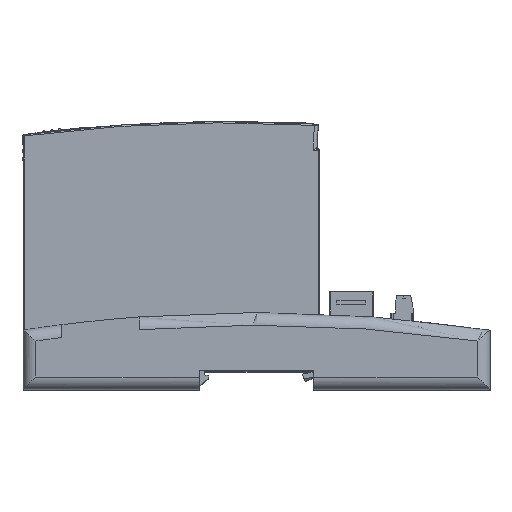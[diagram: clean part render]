
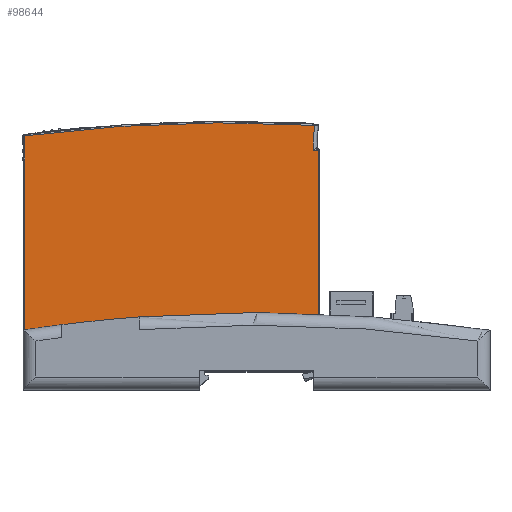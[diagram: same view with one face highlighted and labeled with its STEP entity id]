
A CAD part, top view. The second image highlights one B-rep face of the part: STEP entity #98644.
In plain terms, the highlighted planar face has unit normal (0, 0, 1).
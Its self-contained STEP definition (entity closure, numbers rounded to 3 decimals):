
#9811=DIRECTION('',(0.,1.,0.));
#9812=VECTOR('',#9811,2.4);
#9813=CARTESIAN_POINT('',(152.7,18.7,-0.2));
#9814=LINE('',#9813,#9812);
#17154=DIRECTION('',(-1.,0.,0.));
#17155=VECTOR('',#17154,1.2);
#17156=CARTESIAN_POINT('',(33.3,21.,-0.2));
#17157=LINE('',#17156,#17155);
#17171=DIRECTION('',(1.,0.,0.));
#17172=VECTOR('',#17171,0.3);
#17173=CARTESIAN_POINT('',(33.3,21.1,-0.2));
#17174=LINE('',#17173,#17172);
#17175=CARTESIAN_POINT('',(78.144,-496.603,
-0.2));
#17176=DIRECTION('',(0.,0.,-1.));
#17177=DIRECTION('',(-0.129,0.992,0.));
#17178=AXIS2_PLACEMENT_3D('',#17175,#17176,#17177);
#17180=CARTESIAN_POINT('',(203.417,92.8,-0.2));
#17181=DIRECTION('',(0.,0.,1.));
#17182=DIRECTION('',(-0.995,0.1,0.));
#17183=AXIS2_PLACEMENT_3D('',#17180,#17181,#17182);
#17185=DIRECTION('',(1.,0.,0.));
#17186=VECTOR('',#17185,38.783);
#17187=CARTESIAN_POINT('',(113.917,21.1,-0.2));
#17188=LINE('',#17187,#17186);
#17189=DIRECTION('',(-1.,0.,0.));
#17190=VECTOR('',#17189,120.597);
#17191=CARTESIAN_POINT('',(152.7,18.7,-0.2));
#17192=LINE('',#17191,#17190);
#17193=DIRECTION('',(1.,0.,0.));
#17194=VECTOR('',#17193,17.321);
#17195=CARTESIAN_POINT('',(53.94,21.1,-0.2));
#17196=LINE('',#17195,#17194);
#17197=CARTESIAN_POINT('',(62.6,16.1,-0.2));
#17198=DIRECTION('',(0.,0.,1.));
#17199=DIRECTION('',(0.866,0.5,0.));
#17200=AXIS2_PLACEMENT_3D('',#17197,#17198,#17199);
#17202=CARTESIAN_POINT('',(62.6,16.1,-0.2));
#17203=DIRECTION('',(0.,0.,1.));
#17204=DIRECTION('',(0.,1.,0.));
#17205=AXIS2_PLACEMENT_3D('',#17202,#17203,#17204);
#17220=DIRECTION('',(0.,-1.,0.));
#17221=VECTOR('',#17220,2.);
#17222=CARTESIAN_POINT('',(33.6,23.1,-0.2));
#17223=LINE('',#17222,#17221);
#20006=DIRECTION('',(0.,1.,0.));
#20007=VECTOR('',#20006,71.2);
#20008=CARTESIAN_POINT('',(113.917,21.1,-0.2));
#20009=LINE('',#20008,#20007);
#20095=CARTESIAN_POINT('',(111.918,92.3,
-0.2));
#22486=DIRECTION('',(1.,0.,0.));
#22487=VECTOR('',#22486,3.);
#22488=CARTESIAN_POINT('',(0.6,23.1,-0.2));
#22489=LINE('',#22488,#22487);
#22514=DIRECTION('',(0.,-1.,0.));
#22515=VECTOR('',#22514,74.761);
#22516=CARTESIAN_POINT('',(0.6,97.861,
-0.2));
#22517=LINE('',#22516,#22515);
#22550=DIRECTION('',(0.,-1.,0.));
#22551=VECTOR('',#22550,2.);
#22552=CARTESIAN_POINT('',(3.6,23.1,-0.2));
#22553=LINE('',#22552,#22551);
#22562=DIRECTION('',(1.,0.,0.));
#22563=VECTOR('',#22562,25.);
#22564=CARTESIAN_POINT('',(3.6,21.1,-0.2));
#22565=LINE('',#22564,#22563);
#22578=DIRECTION('',(0.,1.,0.));
#22579=VECTOR('',#22578,2.);
#22580=CARTESIAN_POINT('',(28.6,21.1,-0.2));
#22581=LINE('',#22580,#22579);
#22587=DIRECTION('',(1.,0.,0.));
#22588=VECTOR('',#22587,5.);
#22589=CARTESIAN_POINT('',(28.6,23.1,-0.2));
#22590=LINE('',#22589,#22588);
#29908=DIRECTION('',(-1.,0.,0.));
#29909=VECTOR('',#29908,1.999);
#29910=CARTESIAN_POINT('',(113.917,92.3,-0.2));
#29911=LINE('',#29910,#29909);
#30955=DIRECTION('',(0.001,-1.,0.));
#30956=VECTOR('',#30955,2.3);
#30957=CARTESIAN_POINT('',(32.1,21.,-0.2));
#30958=LINE('',#30957,#30956);
#30967=DIRECTION('',(0.,-1.,0.));
#30968=VECTOR('',#30967,0.1);
#30969=CARTESIAN_POINT('',(33.3,21.1,-0.2));
#30970=LINE('',#30969,#30968);
#62364=CARTESIAN_POINT('',(113.917,21.1,-0.2));
#62366=VERTEX_POINT('',#62364);
#62378=CARTESIAN_POINT('',(71.26,21.1,-0.2));
#62379=VERTEX_POINT('',#62378);
#62381=CARTESIAN_POINT('',(53.94,21.1,-0.2));
#62383=VERTEX_POINT('',#62381);
#62388=CARTESIAN_POINT('',(33.6,21.1,-0.2));
#62389=VERTEX_POINT('',#62388);
#64148=VERTEX_POINT('',#20095);
#64149=CARTESIAN_POINT('',(62.6,26.1,-0.2));
#64150=VERTEX_POINT('',#64149);
#64151=CARTESIAN_POINT('',(33.3,21.1,-0.2));
#64152=VERTEX_POINT('',#64151);
#64153=CARTESIAN_POINT('',(3.6,21.1,-0.2));
#64154=CARTESIAN_POINT('',(28.6,21.1,-0.2));
#64155=VERTEX_POINT('',#64153);
#64156=VERTEX_POINT('',#64154);
#64157=CARTESIAN_POINT('',(3.6,23.1,-0.2));
#64158=VERTEX_POINT('',#64157);
#64159=CARTESIAN_POINT('',(0.6,97.861,
-0.2));
#64160=CARTESIAN_POINT('',(112.373,101.92,
-0.2));
#64161=VERTEX_POINT('',#64159);
#64162=VERTEX_POINT('',#64160);
#64163=CARTESIAN_POINT('',(152.7,21.1,-0.2));
#64164=VERTEX_POINT('',#64163);
#64165=CARTESIAN_POINT('',(152.7,18.7,-0.2));
#64166=VERTEX_POINT('',#64165);
#64167=CARTESIAN_POINT('',(32.103,18.7,-0.2));
#64168=VERTEX_POINT('',#64167);
#64507=CARTESIAN_POINT('',(0.6,23.1,-0.2));
#64508=VERTEX_POINT('',#64507);
#64521=CARTESIAN_POINT('',(28.6,23.1,-0.2));
#64522=VERTEX_POINT('',#64521);
#64525=CARTESIAN_POINT('',(33.6,23.1,-0.2));
#64526=VERTEX_POINT('',#64525);
#64824=CARTESIAN_POINT('',(113.917,92.3,-0.2));
#64825=VERTEX_POINT('',#64824);
#73042=CARTESIAN_POINT('',(33.3,21.,-0.2));
#73043=CARTESIAN_POINT('',(32.1,21.,-0.2));
#73044=VERTEX_POINT('',#73042);
#73045=VERTEX_POINT('',#73043);
#98599=CARTESIAN_POINT('',(76.65,60.804,
-0.2));
#98600=DIRECTION('',(0.,0.,1.));
#98601=DIRECTION('',(1.,0.,0.));
#98602=AXIS2_PLACEMENT_3D('',#98599,#98600,#98601);
#98603=PLANE('',#98602);
#98604=ORIENTED_EDGE('',*,*,#84880,.T.);
#98606=ORIENTED_EDGE('',*,*,#98605,.F.);
#98608=ORIENTED_EDGE('',*,*,#98607,.F.);
#98610=ORIENTED_EDGE('',*,*,#98609,.F.);
#98612=ORIENTED_EDGE('',*,*,#98611,.F.);
#98614=ORIENTED_EDGE('',*,*,#98613,.F.);
#98616=ORIENTED_EDGE('',*,*,#98615,.F.);
#98618=ORIENTED_EDGE('',*,*,#98617,.F.);
#98620=ORIENTED_EDGE('',*,*,#98619,.T.);
#98622=ORIENTED_EDGE('',*,*,#98621,.T.);
#98624=ORIENTED_EDGE('',*,*,#98623,.F.);
#98626=ORIENTED_EDGE('',*,*,#98625,.F.);
#98627=ORIENTED_EDGE('',*,*,#84854,.T.);
#98628=ORIENTED_EDGE('',*,*,#89856,.F.);
#98629=ORIENTED_EDGE('',*,*,#96852,.T.);
#98631=ORIENTED_EDGE('',*,*,#98630,.F.);
#98632=ORIENTED_EDGE('',*,*,#98585,.F.);
#98634=ORIENTED_EDGE('',*,*,#98633,.F.);
#98635=EDGE_LOOP('',(#98604,#98606,#98608,#98610,#98612,#98614,#98616,#98618,
#98620,#98622,#98624,#98626,#98627,#98628,#98629,#98631,#98632,#98634));
#98636=FACE_OUTER_BOUND('',#98635,.F.);
#98637=ORIENTED_EDGE('',*,*,#84870,.T.);
#98639=ORIENTED_EDGE('',*,*,#98638,.T.);
#98641=ORIENTED_EDGE('',*,*,#98640,.T.);
#98642=EDGE_LOOP('',(#98637,#98639,#98641));
#98643=FACE_BOUND('',#98642,.F.);
#17179=CIRCLE('',#17178,599.5);
#17184=CIRCLE('',#17183,91.5);
#17201=CIRCLE('',#17200,10.);
#17206=CIRCLE('',#17205,10.);
#84854=EDGE_CURVE('',#62366,#64164,#17188,.T.);
#84870=EDGE_CURVE('',#62383,#62379,#17196,.T.);
#84880=EDGE_CURVE('',#64152,#62389,#17174,.T.);
#89856=EDGE_CURVE('',#64166,#64164,#9814,.T.);
#96852=EDGE_CURVE('',#64166,#64168,#17192,.T.);
#98585=EDGE_CURVE('',#73044,#73045,#17157,.T.);
#98605=EDGE_CURVE('',#64526,#62389,#17223,.T.);
#98607=EDGE_CURVE('',#64522,#64526,#22590,.T.);
#98609=EDGE_CURVE('',#64156,#64522,#22581,.T.);
#98611=EDGE_CURVE('',#64155,#64156,#22565,.T.);
#98613=EDGE_CURVE('',#64158,#64155,#22553,.T.);
#98615=EDGE_CURVE('',#64508,#64158,#22489,.T.);
#98617=EDGE_CURVE('',#64161,#64508,#22517,.T.);
#98619=EDGE_CURVE('',#64161,#64162,#17179,.T.);
#98621=EDGE_CURVE('',#64162,#64148,#17184,.T.);
#98623=EDGE_CURVE('',#64825,#64148,#29911,.T.);
#98625=EDGE_CURVE('',#62366,#64825,#20009,.T.);
#98630=EDGE_CURVE('',#73045,#64168,#30958,.T.);
#98633=EDGE_CURVE('',#64152,#73044,#30970,.T.);
#98638=EDGE_CURVE('',#62379,#64150,#17201,.T.);
#98640=EDGE_CURVE('',#64150,#62383,#17206,.T.);
#98644=ADVANCED_FACE('',(#98636,#98643),#98603,.T.);
